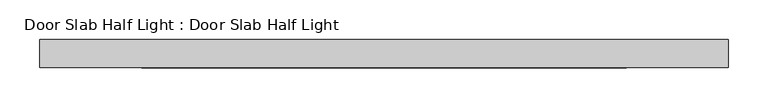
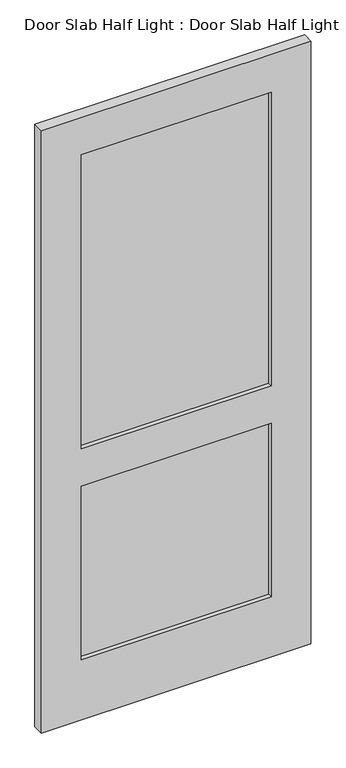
"""IFC4 building model written with IfcOpenShell, lengths in millimetres: proxy geometry, Door Slab Half Light : Door Slab Half Light."""

from ifc_helpers import new_model, si_unit, frame, origin, place, context, project, spatial, polyline, outline, extrude, source, transform, mapped, element, save


def door_slab_half_light_door_slab_half_light_25268f3b(model_context):
    return source(origin(), model_context, "Body", "SweptSolid", [
        extrude(outline(polyline([(303.2125, 3.175), (303.2125, -3.175), (-303.2125, -3.175), (-303.2125, 3.175), (303.2125, 3.175)])), frame((0.0, 0.0, 203.2), z_axis=(0.0, 0.0, 1.0), x_axis=(1.0, 0.0, 0.0)), (0.0, 0.0, 1.0), 584.2),
        extrude(outline(polyline([(303.2125, 3.175), (303.2125, -3.175), (-303.2125, -3.175), (-303.2125, 3.175), (303.2125, 3.175)])), frame((0.0, 0.0, 914.4), z_axis=(0.0, 0.0, 1.0), x_axis=(1.0, 0.0, 0.0)), (0.0, 0.0, 1.0), 990.6),
        extrude(outline(polyline([(0.0, 430.2125), (2032.0, 430.2125), (2032.0, -430.2125), (0.0, -430.2125), (0.0, 430.2125)]), holes=[polyline([(203.2, 303.2125), (203.2, -303.2125), (787.4, -303.2125), (787.4, 303.2125), (203.2, 303.2125)]), polyline([(914.4, -303.2125), (1905.0, -303.2125), (1905.0, 303.2125), (914.4, 303.2125), (914.4, -303.2125)])]), frame((0.0, -17.4625, 0.0), z_axis=(0.0, 1.0, 0.0), x_axis=(0.0, 0.0, 1.0)), (0.0, 0.0, 1.0), 34.925),
    ])


if __name__ == "__main__":
    model = new_model("IFC4")
    model_context = context("Model", 3, world=origin())
    ifc_project = project(units=[si_unit("LENGTHUNIT", "METRE", prefix="MILLI")], contexts=[model_context])
    site = spatial("IfcSite", under=ifc_project)
    building = spatial("IfcBuilding", under=site)
    placement = place(None, origin())
    door_slab_half_light_door_slab_half_light_shape = door_slab_half_light_door_slab_half_light_25268f3b(model_context)
    element("IfcBuildingElementProxy", 1, Name="Door Slab Half Light : Door Slab Half Light", ObjectType="Door Slab Half Light : Door Slab Half Light", at=placement, inside=building, context=model_context, shape_type="MappedRepresentation", body=[
        mapped(door_slab_half_light_door_slab_half_light_shape, transform((0.0, 0.0, 0.0), x_axis=(1.0, 0.0, 0.0), y_axis=(0.0, 1.0, 0.0), z_axis=(0.0, 0.0, 1.0))),
    ])
    save(model, "model.ifc")
